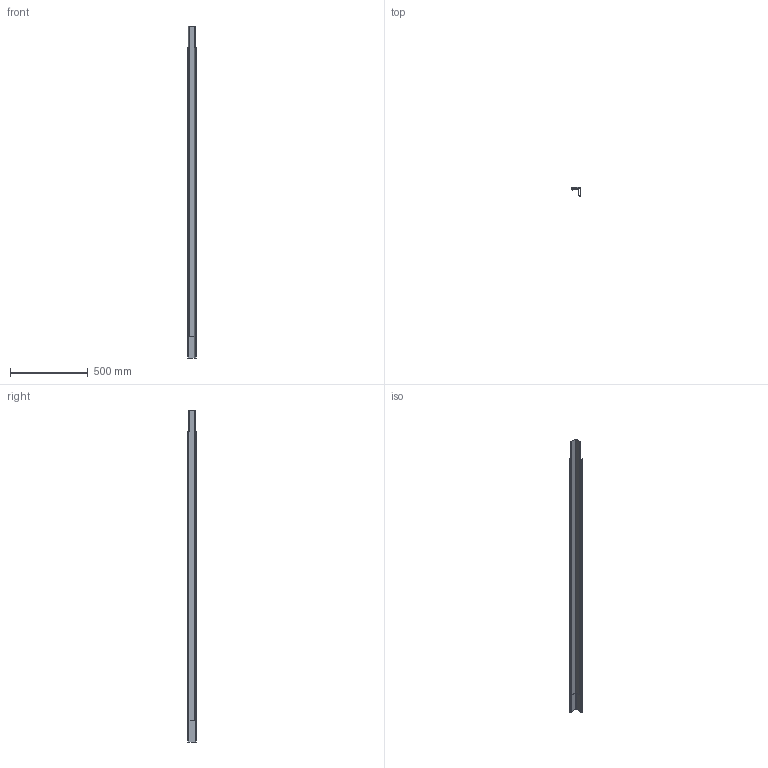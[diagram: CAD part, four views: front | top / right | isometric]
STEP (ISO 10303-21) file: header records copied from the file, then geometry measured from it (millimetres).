
FILE_DESCRIPTION (( 'STEP AP203' ), '1' );
FILE_NAME ('M20C.STEP', '2018-06-19T11:43:57', ( 'Michael Moliner' ), ( '' ), 'SwSTEP 2.0', 'SolidWorks 2018', '' );
FILE_SCHEMA (( 'CONFIG_CONTROL_DESIGN' ));
Length unit declared in the file: millimetre
Products named in the file (5): M20C-SUPPORT; M20C CAP; M20C
Assembly tree (2 placements, depth 2):
  M20C
    M20C-SUPPORT
    M20C CAP
  M20C-SUPPORT
  M20C CAP
Bounding box: 55.56 x 55.56 x 2139.01 mm (x, y, z)
Volume: 228670.5 mm3; surface area: 904423.4 mm2
Topology: 2 solids, 2 shells, 34 faces, 90 edges, 60 vertices
Faces by surface type: plane 28, cylinder 6
Entity records: 1503 total; most frequent: CARTESIAN_POINT 190, DIRECTION 182, ORIENTED_EDGE 180, EDGE_CURVE 90, LINE 78, VECTOR 78, VERTEX_POINT 60, AXIS2_PLACEMENT_3D 52
